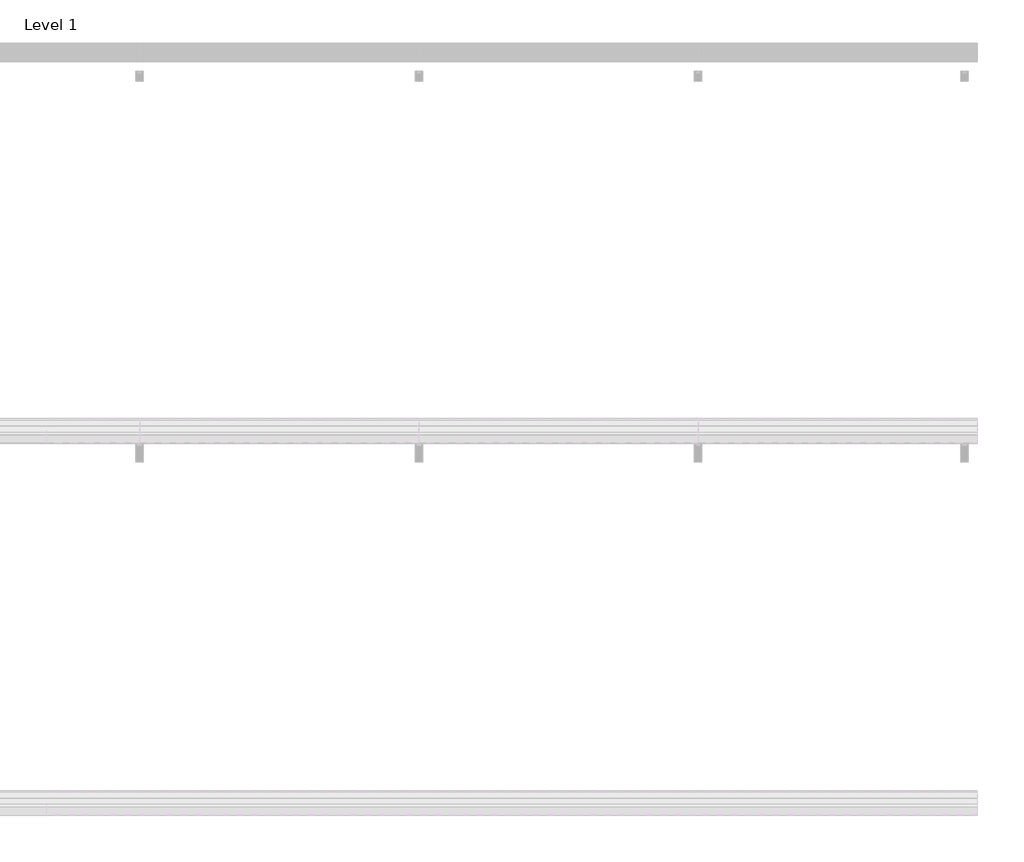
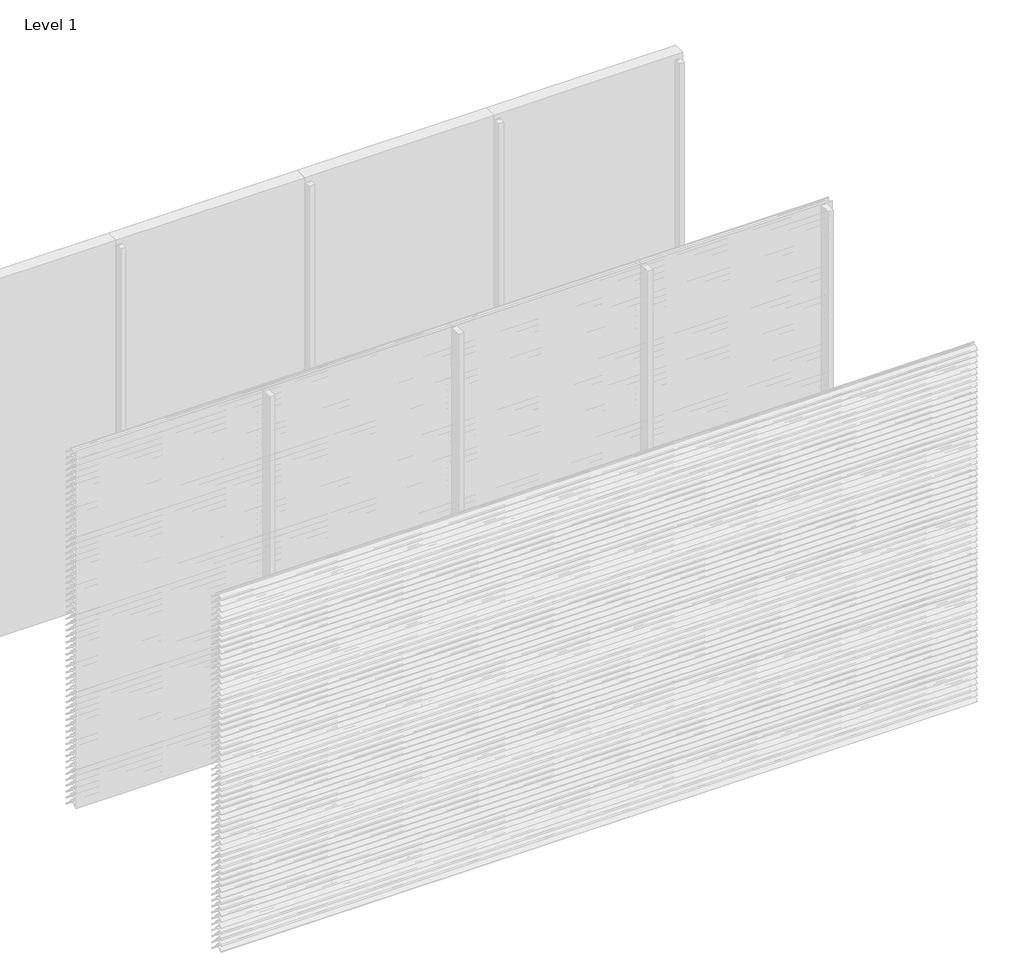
# One storey, part 67 of 173: 18 proxies.
"""IFC4 building model written with IfcOpenShell, lengths in millimetres."""

from ifc_helpers import new_model, si_unit, point, frame, frame_2d, origin, place, context, project, spatial, polyline, circle_curve, trimmed, segment, composite_curve, outline, extrude, element, save

model = new_model("IFC4")

# Units and contexts
model_context = context("Model", 3, world=origin())
ifc_project = project(units=[si_unit("LENGTHUNIT", "METRE", prefix="MILLI")], contexts=[model_context])

# Site, building, storey
site = spatial("IfcSite", under=ifc_project)
building = spatial("IfcBuilding", under=site)
storey = spatial("IfcBuildingStorey", under=building, Name="Level 1", Elevation=0.0)

# Proxies
placement = place(None, origin())
element("IfcBuildingElementProxy", 1, Name="Wall Sweeps", at=placement, inside=storey, context=model_context, shape_type="SweptSolid", body=[
    extrude(outline(composite_curve([segment(polyline([(-35998.0, 959.1474905), (-35998.0, 961.6227417)]), True, "CONTINUOUS"), segment(trimmed(circle_curve(frame_2d((-35951.2682172, 916.2200208)), 65.1557103), [point((-35998.0, 961.6227417))], [point((-35954.4014323, 981.3003524))], False, "CARTESIAN"), True, "CONTINUOUS"), segment(polyline([(-35954.4014323, 981.3003524), (-35934.8315836, 981.3003524)]), True, "CONTINUOUS"), segment(trimmed(circle_curve(frame_2d((-35732.7329489, 1128.5533172)), 250.0545817), [point((-35934.8315836, 981.3003524))], [point((-35941.4452143, 990.8344583))], False, "CARTESIAN"), True, "CONTINUOUS"), segment(trimmed(circle_curve(frame_2d((-35953.2981792, 985.1737835)), 13.1352966), [point((-35941.4452143, 990.8344583))], [point((-35953.8171475, 998.298824))], True, "CARTESIAN"), True, "CONTINUOUS"), segment(polyline([(-35953.8171475, 998.298824), (-35953.8171475, 1000.0)]), True, "CONTINUOUS"), segment(trimmed(circle_curve(frame_2d((-35953.2981792, 985.1737835)), 14.8352966), [point((-35953.8171475, 1000.0))], [point((-35939.9637661, 991.6760487))], False, "CARTESIAN"), True, "CONTINUOUS"), segment(trimmed(circle_curve(frame_2d((-35732.7329489, 1128.5533172)), 248.3545817), [point((-35939.9637661, 991.6760487))], [point((-35873.8787895, 924.2059416))], True, "CARTESIAN"), True, "CONTINUOUS"), segment(trimmed(circle_curve(frame_2d((-35883.8147537, 911.6649442)), 16.0), [point((-35873.8787895, 924.2059416))], [point((-35867.8648347, 910.4))], False, "CARTESIAN"), True, "CONTINUOUS"), segment(polyline([(-35867.8648347, 910.4), (-35869.6712069, 910.4)]), True, "CONTINUOUS"), segment(trimmed(circle_curve(frame_2d((-35883.8147537, 911.6649442)), 14.2), [point((-35869.6712069, 910.4))], [point((-35874.9518628, 922.7594998))], True, "CARTESIAN"), True, "CONTINUOUS"), segment(trimmed(circle_curve(frame_2d((-35732.7329489, 1128.5533172)), 250.1545817), [point((-35874.9518628, 922.7594998))], [point((-35933.7064024, 979.6003524))], False, "CARTESIAN"), True, "CONTINUOUS"), segment(polyline([(-35933.7064024, 979.6003524), (-35954.3602632, 979.6003524)]), True, "CONTINUOUS"), segment(trimmed(circle_curve(frame_2d((-35951.2682172, 916.2200208)), 63.4557103), [point((-35954.3602632, 979.6003524))], [point((-35998.0, 959.1474905))], True, "CARTESIAN"), True, "CONTINUOUS")], self_intersect=False)), frame((3000.0, 0.0, 0.0), z_axis=(1.0, 0.0, 0.0), x_axis=(0.0, 1.0, 0.0)), (0.0, 0.0, 1.0), 1500.0),
])
element("IfcBuildingElementProxy", 2, Name="Wall Sweeps", at=placement, inside=storey, context=model_context, shape_type="SweptSolid", body=[
    extrude(outline(composite_curve([segment(polyline([(-35998.0, 909.1474905), (-35998.0, 911.6227417)]), True, "CONTINUOUS"), segment(trimmed(circle_curve(frame_2d((-35951.2682172, 866.2200208)), 65.1557103), [point((-35998.0, 911.6227417))], [point((-35954.4014323, 931.3003524))], False, "CARTESIAN"), True, "CONTINUOUS"), segment(polyline([(-35954.4014323, 931.3003524), (-35934.8315836, 931.3003524)]), True, "CONTINUOUS"), segment(trimmed(circle_curve(frame_2d((-35732.7329489, 1078.5533172)), 250.0545817), [point((-35934.8315836, 931.3003524))], [point((-35941.4452143, 940.8344583))], False, "CARTESIAN"), True, "CONTINUOUS"), segment(trimmed(circle_curve(frame_2d((-35953.2981792, 935.1737835)), 13.1352966), [point((-35941.4452143, 940.8344583))], [point((-35953.8171475, 948.298824))], True, "CARTESIAN"), True, "CONTINUOUS"), segment(polyline([(-35953.8171475, 948.298824), (-35953.8171475, 950.0)]), True, "CONTINUOUS"), segment(trimmed(circle_curve(frame_2d((-35953.2981792, 935.1737835)), 14.8352966), [point((-35953.8171475, 950.0))], [point((-35939.9637661, 941.6760487))], False, "CARTESIAN"), True, "CONTINUOUS"), segment(trimmed(circle_curve(frame_2d((-35732.7329489, 1078.5533172)), 248.3545817), [point((-35939.9637661, 941.6760487))], [point((-35873.8787895, 874.2059416))], True, "CARTESIAN"), True, "CONTINUOUS"), segment(trimmed(circle_curve(frame_2d((-35883.8147537, 861.6649442)), 16.0), [point((-35873.8787895, 874.2059416))], [point((-35867.8648347, 860.4))], False, "CARTESIAN"), True, "CONTINUOUS"), segment(polyline([(-35867.8648347, 860.4), (-35869.6712069, 860.4)]), True, "CONTINUOUS"), segment(trimmed(circle_curve(frame_2d((-35883.8147537, 861.6649442)), 14.2), [point((-35869.6712069, 860.4))], [point((-35874.9518628, 872.7594998))], True, "CARTESIAN"), True, "CONTINUOUS"), segment(trimmed(circle_curve(frame_2d((-35732.7329489, 1078.5533172)), 250.1545817), [point((-35874.9518628, 872.7594998))], [point((-35933.7064024, 929.6003524))], False, "CARTESIAN"), True, "CONTINUOUS"), segment(polyline([(-35933.7064024, 929.6003524), (-35954.3602632, 929.6003524)]), True, "CONTINUOUS"), segment(trimmed(circle_curve(frame_2d((-35951.2682172, 866.2200208)), 63.4557103), [point((-35954.3602632, 929.6003524))], [point((-35998.0, 909.1474905))], True, "CARTESIAN"), True, "CONTINUOUS")], self_intersect=False)), frame((3000.0, 0.0, 0.0), z_axis=(1.0, 0.0, 0.0), x_axis=(0.0, 1.0, 0.0)), (0.0, 0.0, 1.0), 1500.0),
])
element("IfcBuildingElementProxy", 3, Name="Wall Sweeps", at=placement, inside=storey, context=model_context, shape_type="SweptSolid", body=[
    extrude(outline(composite_curve([segment(polyline([(-35998.0, 859.1474905), (-35998.0, 861.6227417)]), True, "CONTINUOUS"), segment(trimmed(circle_curve(frame_2d((-35951.2682172, 816.2200208)), 65.1557103), [point((-35998.0, 861.6227417))], [point((-35954.4014323, 881.3003524))], False, "CARTESIAN"), True, "CONTINUOUS"), segment(polyline([(-35954.4014323, 881.3003524), (-35934.8315836, 881.3003524)]), True, "CONTINUOUS"), segment(trimmed(circle_curve(frame_2d((-35732.7329489, 1028.5533172)), 250.0545817), [point((-35934.8315836, 881.3003524))], [point((-35941.4452143, 890.8344583))], False, "CARTESIAN"), True, "CONTINUOUS"), segment(trimmed(circle_curve(frame_2d((-35953.2981792, 885.1737835)), 13.1352966), [point((-35941.4452143, 890.8344583))], [point((-35953.8171475, 898.298824))], True, "CARTESIAN"), True, "CONTINUOUS"), segment(polyline([(-35953.8171475, 898.298824), (-35953.8171475, 900.0)]), True, "CONTINUOUS"), segment(trimmed(circle_curve(frame_2d((-35953.2981792, 885.1737835)), 14.8352966), [point((-35953.8171475, 900.0))], [point((-35939.9637661, 891.6760487))], False, "CARTESIAN"), True, "CONTINUOUS"), segment(trimmed(circle_curve(frame_2d((-35732.7329489, 1028.5533172)), 248.3545817), [point((-35939.9637661, 891.6760487))], [point((-35873.8787895, 824.2059416))], True, "CARTESIAN"), True, "CONTINUOUS"), segment(trimmed(circle_curve(frame_2d((-35883.8147537, 811.6649442)), 16.0), [point((-35873.8787895, 824.2059416))], [point((-35867.8648347, 810.4))], False, "CARTESIAN"), True, "CONTINUOUS"), segment(polyline([(-35867.8648347, 810.4), (-35869.6712069, 810.4)]), True, "CONTINUOUS"), segment(trimmed(circle_curve(frame_2d((-35883.8147537, 811.6649442)), 14.2), [point((-35869.6712069, 810.4))], [point((-35874.9518628, 822.7594998))], True, "CARTESIAN"), True, "CONTINUOUS"), segment(trimmed(circle_curve(frame_2d((-35732.7329489, 1028.5533172)), 250.1545817), [point((-35874.9518628, 822.7594998))], [point((-35933.7064024, 879.6003524))], False, "CARTESIAN"), True, "CONTINUOUS"), segment(polyline([(-35933.7064024, 879.6003524), (-35954.3602632, 879.6003524)]), True, "CONTINUOUS"), segment(trimmed(circle_curve(frame_2d((-35951.2682172, 816.2200208)), 63.4557103), [point((-35954.3602632, 879.6003524))], [point((-35998.0, 859.1474905))], True, "CARTESIAN"), True, "CONTINUOUS")], self_intersect=False)), frame((3000.0, 0.0, 0.0), z_axis=(1.0, 0.0, 0.0), x_axis=(0.0, 1.0, 0.0)), (0.0, 0.0, 1.0), 1500.0),
])
element("IfcBuildingElementProxy", 4, Name="Wall Sweeps", at=placement, inside=storey, context=model_context, shape_type="SweptSolid", body=[
    extrude(outline(composite_curve([segment(polyline([(-35998.0, 809.1474905), (-35998.0, 811.6227417)]), True, "CONTINUOUS"), segment(trimmed(circle_curve(frame_2d((-35951.2682172, 766.2200208)), 65.1557103), [point((-35998.0, 811.6227417))], [point((-35954.4014323, 831.3003524))], False, "CARTESIAN"), True, "CONTINUOUS"), segment(polyline([(-35954.4014323, 831.3003524), (-35934.8315836, 831.3003524)]), True, "CONTINUOUS"), segment(trimmed(circle_curve(frame_2d((-35732.7329489, 978.5533172)), 250.0545817), [point((-35934.8315836, 831.3003524))], [point((-35941.4452143, 840.8344583))], False, "CARTESIAN"), True, "CONTINUOUS"), segment(trimmed(circle_curve(frame_2d((-35953.2981792, 835.1737835)), 13.1352966), [point((-35941.4452143, 840.8344583))], [point((-35953.8171475, 848.298824))], True, "CARTESIAN"), True, "CONTINUOUS"), segment(polyline([(-35953.8171475, 848.298824), (-35953.8171475, 850.0)]), True, "CONTINUOUS"), segment(trimmed(circle_curve(frame_2d((-35953.2981792, 835.1737835)), 14.8352966), [point((-35953.8171475, 850.0))], [point((-35939.9637661, 841.6760487))], False, "CARTESIAN"), True, "CONTINUOUS"), segment(trimmed(circle_curve(frame_2d((-35732.7329489, 978.5533172)), 248.3545817), [point((-35939.9637661, 841.6760487))], [point((-35873.8787895, 774.2059416))], True, "CARTESIAN"), True, "CONTINUOUS"), segment(trimmed(circle_curve(frame_2d((-35883.8147537, 761.6649442)), 16.0), [point((-35873.8787895, 774.2059416))], [point((-35867.8648347, 760.4))], False, "CARTESIAN"), True, "CONTINUOUS"), segment(polyline([(-35867.8648347, 760.4), (-35869.6712069, 760.4)]), True, "CONTINUOUS"), segment(trimmed(circle_curve(frame_2d((-35883.8147537, 761.6649442)), 14.2), [point((-35869.6712069, 760.4))], [point((-35874.9518628, 772.7594998))], True, "CARTESIAN"), True, "CONTINUOUS"), segment(trimmed(circle_curve(frame_2d((-35732.7329489, 978.5533172)), 250.1545817), [point((-35874.9518628, 772.7594998))], [point((-35933.7064024, 829.6003524))], False, "CARTESIAN"), True, "CONTINUOUS"), segment(polyline([(-35933.7064024, 829.6003524), (-35954.3602632, 829.6003524)]), True, "CONTINUOUS"), segment(trimmed(circle_curve(frame_2d((-35951.2682172, 766.2200208)), 63.4557103), [point((-35954.3602632, 829.6003524))], [point((-35998.0, 809.1474905))], True, "CARTESIAN"), True, "CONTINUOUS")], self_intersect=False)), frame((3000.0, 0.0, 0.0), z_axis=(1.0, 0.0, 0.0), x_axis=(0.0, 1.0, 0.0)), (0.0, 0.0, 1.0), 1500.0),
])
element("IfcBuildingElementProxy", 5, Name="Wall Sweeps", at=placement, inside=storey, context=model_context, shape_type="SweptSolid", body=[
    extrude(outline(composite_curve([segment(polyline([(-35998.0, 759.1474905), (-35998.0, 761.6227417)]), True, "CONTINUOUS"), segment(trimmed(circle_curve(frame_2d((-35951.2682172, 716.2200208)), 65.1557103), [point((-35998.0, 761.6227417))], [point((-35954.4014323, 781.3003524))], False, "CARTESIAN"), True, "CONTINUOUS"), segment(polyline([(-35954.4014323, 781.3003524), (-35934.8315836, 781.3003524)]), True, "CONTINUOUS"), segment(trimmed(circle_curve(frame_2d((-35732.7329489, 928.5533172)), 250.0545817), [point((-35934.8315836, 781.3003524))], [point((-35941.4452143, 790.8344583))], False, "CARTESIAN"), True, "CONTINUOUS"), segment(trimmed(circle_curve(frame_2d((-35953.2981792, 785.1737835)), 13.1352966), [point((-35941.4452143, 790.8344583))], [point((-35953.8171475, 798.298824))], True, "CARTESIAN"), True, "CONTINUOUS"), segment(polyline([(-35953.8171475, 798.298824), (-35953.8171475, 800.0)]), True, "CONTINUOUS"), segment(trimmed(circle_curve(frame_2d((-35953.2981792, 785.1737835)), 14.8352966), [point((-35953.8171475, 800.0))], [point((-35939.9637661, 791.6760487))], False, "CARTESIAN"), True, "CONTINUOUS"), segment(trimmed(circle_curve(frame_2d((-35732.7329489, 928.5533172)), 248.3545817), [point((-35939.9637661, 791.6760487))], [point((-35873.8787895, 724.2059416))], True, "CARTESIAN"), True, "CONTINUOUS"), segment(trimmed(circle_curve(frame_2d((-35883.8147537, 711.6649442)), 16.0), [point((-35873.8787895, 724.2059416))], [point((-35867.8648347, 710.4))], False, "CARTESIAN"), True, "CONTINUOUS"), segment(polyline([(-35867.8648347, 710.4), (-35869.6712069, 710.4)]), True, "CONTINUOUS"), segment(trimmed(circle_curve(frame_2d((-35883.8147537, 711.6649442)), 14.2), [point((-35869.6712069, 710.4))], [point((-35874.9518628, 722.7594998))], True, "CARTESIAN"), True, "CONTINUOUS"), segment(trimmed(circle_curve(frame_2d((-35732.7329489, 928.5533172)), 250.1545817), [point((-35874.9518628, 722.7594998))], [point((-35933.7064024, 779.6003524))], False, "CARTESIAN"), True, "CONTINUOUS"), segment(polyline([(-35933.7064024, 779.6003524), (-35954.3602632, 779.6003524)]), True, "CONTINUOUS"), segment(trimmed(circle_curve(frame_2d((-35951.2682172, 716.2200208)), 63.4557103), [point((-35954.3602632, 779.6003524))], [point((-35998.0, 759.1474905))], True, "CARTESIAN"), True, "CONTINUOUS")], self_intersect=False)), frame((3000.0, 0.0, 0.0), z_axis=(1.0, 0.0, 0.0), x_axis=(0.0, 1.0, 0.0)), (0.0, 0.0, 1.0), 1500.0),
])
element("IfcBuildingElementProxy", 6, Name="Wall Sweeps", at=placement, inside=storey, context=model_context, shape_type="SweptSolid", body=[
    extrude(outline(composite_curve([segment(polyline([(-35998.0, 709.1474905), (-35998.0, 711.6227417)]), True, "CONTINUOUS"), segment(trimmed(circle_curve(frame_2d((-35951.2682172, 666.2200208)), 65.1557103), [point((-35998.0, 711.6227417))], [point((-35954.4014323, 731.3003524))], False, "CARTESIAN"), True, "CONTINUOUS"), segment(polyline([(-35954.4014323, 731.3003524), (-35934.8315836, 731.3003524)]), True, "CONTINUOUS"), segment(trimmed(circle_curve(frame_2d((-35732.7329489, 878.5533172)), 250.0545817), [point((-35934.8315836, 731.3003524))], [point((-35941.4452143, 740.8344583))], False, "CARTESIAN"), True, "CONTINUOUS"), segment(trimmed(circle_curve(frame_2d((-35953.2981792, 735.1737835)), 13.1352966), [point((-35941.4452143, 740.8344583))], [point((-35953.8171475, 748.298824))], True, "CARTESIAN"), True, "CONTINUOUS"), segment(polyline([(-35953.8171475, 748.298824), (-35953.8171475, 750.0)]), True, "CONTINUOUS"), segment(trimmed(circle_curve(frame_2d((-35953.2981792, 735.1737835)), 14.8352966), [point((-35953.8171475, 750.0))], [point((-35939.9637661, 741.6760487))], False, "CARTESIAN"), True, "CONTINUOUS"), segment(trimmed(circle_curve(frame_2d((-35732.7329489, 878.5533172)), 248.3545817), [point((-35939.9637661, 741.6760487))], [point((-35873.8787895, 674.2059416))], True, "CARTESIAN"), True, "CONTINUOUS"), segment(trimmed(circle_curve(frame_2d((-35883.8147537, 661.6649442)), 16.0), [point((-35873.8787895, 674.2059416))], [point((-35867.8648347, 660.4))], False, "CARTESIAN"), True, "CONTINUOUS"), segment(polyline([(-35867.8648347, 660.4), (-35869.6712069, 660.4)]), True, "CONTINUOUS"), segment(trimmed(circle_curve(frame_2d((-35883.8147537, 661.6649442)), 14.2), [point((-35869.6712069, 660.4))], [point((-35874.9518628, 672.7594998))], True, "CARTESIAN"), True, "CONTINUOUS"), segment(trimmed(circle_curve(frame_2d((-35732.7329489, 878.5533172)), 250.1545817), [point((-35874.9518628, 672.7594998))], [point((-35933.7064024, 729.6003524))], False, "CARTESIAN"), True, "CONTINUOUS"), segment(polyline([(-35933.7064024, 729.6003524), (-35954.3602632, 729.6003524)]), True, "CONTINUOUS"), segment(trimmed(circle_curve(frame_2d((-35951.2682172, 666.2200208)), 63.4557103), [point((-35954.3602632, 729.6003524))], [point((-35998.0, 709.1474905))], True, "CARTESIAN"), True, "CONTINUOUS")], self_intersect=False)), frame((3000.0, 0.0, 0.0), z_axis=(1.0, 0.0, 0.0), x_axis=(0.0, 1.0, 0.0)), (0.0, 0.0, 1.0), 1500.0),
])
element("IfcBuildingElementProxy", 7, Name="Wall Sweeps", at=placement, inside=storey, context=model_context, shape_type="SweptSolid", body=[
    extrude(outline(composite_curve([segment(polyline([(-35998.0, 659.1474905), (-35998.0, 661.6227417)]), True, "CONTINUOUS"), segment(trimmed(circle_curve(frame_2d((-35951.2682172, 616.2200208)), 65.1557103), [point((-35998.0, 661.6227417))], [point((-35954.4014323, 681.3003524))], False, "CARTESIAN"), True, "CONTINUOUS"), segment(polyline([(-35954.4014323, 681.3003524), (-35934.8315836, 681.3003524)]), True, "CONTINUOUS"), segment(trimmed(circle_curve(frame_2d((-35732.7329489, 828.5533172)), 250.0545817), [point((-35934.8315836, 681.3003524))], [point((-35941.4452143, 690.8344583))], False, "CARTESIAN"), True, "CONTINUOUS"), segment(trimmed(circle_curve(frame_2d((-35953.2981792, 685.1737835)), 13.1352966), [point((-35941.4452143, 690.8344583))], [point((-35953.8171475, 698.298824))], True, "CARTESIAN"), True, "CONTINUOUS"), segment(polyline([(-35953.8171475, 698.298824), (-35953.8171475, 700.0)]), True, "CONTINUOUS"), segment(trimmed(circle_curve(frame_2d((-35953.2981792, 685.1737835)), 14.8352966), [point((-35953.8171475, 700.0))], [point((-35939.9637661, 691.6760487))], False, "CARTESIAN"), True, "CONTINUOUS"), segment(trimmed(circle_curve(frame_2d((-35732.7329489, 828.5533172)), 248.3545817), [point((-35939.9637661, 691.6760487))], [point((-35873.8787895, 624.2059416))], True, "CARTESIAN"), True, "CONTINUOUS"), segment(trimmed(circle_curve(frame_2d((-35883.8147537, 611.6649442)), 16.0), [point((-35873.8787895, 624.2059416))], [point((-35867.8648347, 610.4))], False, "CARTESIAN"), True, "CONTINUOUS"), segment(polyline([(-35867.8648347, 610.4), (-35869.6712069, 610.4)]), True, "CONTINUOUS"), segment(trimmed(circle_curve(frame_2d((-35883.8147537, 611.6649442)), 14.2), [point((-35869.6712069, 610.4))], [point((-35874.9518628, 622.7594998))], True, "CARTESIAN"), True, "CONTINUOUS"), segment(trimmed(circle_curve(frame_2d((-35732.7329489, 828.5533172)), 250.1545817), [point((-35874.9518628, 622.7594998))], [point((-35933.7064024, 679.6003524))], False, "CARTESIAN"), True, "CONTINUOUS"), segment(polyline([(-35933.7064024, 679.6003524), (-35954.3602632, 679.6003524)]), True, "CONTINUOUS"), segment(trimmed(circle_curve(frame_2d((-35951.2682172, 616.2200208)), 63.4557103), [point((-35954.3602632, 679.6003524))], [point((-35998.0, 659.1474905))], True, "CARTESIAN"), True, "CONTINUOUS")], self_intersect=False)), frame((3000.0, 0.0, 0.0), z_axis=(1.0, 0.0, 0.0), x_axis=(0.0, 1.0, 0.0)), (0.0, 0.0, 1.0), 1500.0),
])
element("IfcBuildingElementProxy", 8, Name="Wall Sweeps", at=placement, inside=storey, context=model_context, shape_type="SweptSolid", body=[
    extrude(outline(composite_curve([segment(polyline([(-35998.0, 609.1474905), (-35998.0, 611.6227417)]), True, "CONTINUOUS"), segment(trimmed(circle_curve(frame_2d((-35951.2682172, 566.2200208)), 65.1557103), [point((-35998.0, 611.6227417))], [point((-35954.4014323, 631.3003524))], False, "CARTESIAN"), True, "CONTINUOUS"), segment(polyline([(-35954.4014323, 631.3003524), (-35934.8315836, 631.3003524)]), True, "CONTINUOUS"), segment(trimmed(circle_curve(frame_2d((-35732.7329489, 778.5533172)), 250.0545817), [point((-35934.8315836, 631.3003524))], [point((-35941.4452143, 640.8344583))], False, "CARTESIAN"), True, "CONTINUOUS"), segment(trimmed(circle_curve(frame_2d((-35953.2981792, 635.1737835)), 13.1352966), [point((-35941.4452143, 640.8344583))], [point((-35953.8171475, 648.298824))], True, "CARTESIAN"), True, "CONTINUOUS"), segment(polyline([(-35953.8171475, 648.298824), (-35953.8171475, 650.0)]), True, "CONTINUOUS"), segment(trimmed(circle_curve(frame_2d((-35953.2981792, 635.1737835)), 14.8352966), [point((-35953.8171475, 650.0))], [point((-35939.9637661, 641.6760487))], False, "CARTESIAN"), True, "CONTINUOUS"), segment(trimmed(circle_curve(frame_2d((-35732.7329489, 778.5533172)), 248.3545817), [point((-35939.9637661, 641.6760487))], [point((-35873.8787895, 574.2059416))], True, "CARTESIAN"), True, "CONTINUOUS"), segment(trimmed(circle_curve(frame_2d((-35883.8147537, 561.6649442)), 16.0), [point((-35873.8787895, 574.2059416))], [point((-35867.8648347, 560.4))], False, "CARTESIAN"), True, "CONTINUOUS"), segment(polyline([(-35867.8648347, 560.4), (-35869.6712069, 560.4)]), True, "CONTINUOUS"), segment(trimmed(circle_curve(frame_2d((-35883.8147537, 561.6649442)), 14.2), [point((-35869.6712069, 560.4))], [point((-35874.9518628, 572.7594998))], True, "CARTESIAN"), True, "CONTINUOUS"), segment(trimmed(circle_curve(frame_2d((-35732.7329489, 778.5533172)), 250.1545817), [point((-35874.9518628, 572.7594998))], [point((-35933.7064024, 629.6003524))], False, "CARTESIAN"), True, "CONTINUOUS"), segment(polyline([(-35933.7064024, 629.6003524), (-35954.3602632, 629.6003524)]), True, "CONTINUOUS"), segment(trimmed(circle_curve(frame_2d((-35951.2682172, 566.2200208)), 63.4557103), [point((-35954.3602632, 629.6003524))], [point((-35998.0, 609.1474905))], True, "CARTESIAN"), True, "CONTINUOUS")], self_intersect=False)), frame((3000.0, 0.0, 0.0), z_axis=(1.0, 0.0, 0.0), x_axis=(0.0, 1.0, 0.0)), (0.0, 0.0, 1.0), 1500.0),
])
element("IfcBuildingElementProxy", 9, Name="Wall Sweeps", at=placement, inside=storey, context=model_context, shape_type="SweptSolid", body=[
    extrude(outline(composite_curve([segment(polyline([(-35998.0, 559.1474905), (-35998.0, 561.6227417)]), True, "CONTINUOUS"), segment(trimmed(circle_curve(frame_2d((-35951.2682172, 516.2200208)), 65.1557103), [point((-35998.0, 561.6227417))], [point((-35954.4014323, 581.3003524))], False, "CARTESIAN"), True, "CONTINUOUS"), segment(polyline([(-35954.4014323, 581.3003524), (-35934.8315836, 581.3003524)]), True, "CONTINUOUS"), segment(trimmed(circle_curve(frame_2d((-35732.7329489, 728.5533172)), 250.0545817), [point((-35934.8315836, 581.3003524))], [point((-35941.4452143, 590.8344583))], False, "CARTESIAN"), True, "CONTINUOUS"), segment(trimmed(circle_curve(frame_2d((-35953.2981792, 585.1737835)), 13.1352966), [point((-35941.4452143, 590.8344583))], [point((-35953.8171475, 598.298824))], True, "CARTESIAN"), True, "CONTINUOUS"), segment(polyline([(-35953.8171475, 598.298824), (-35953.8171475, 600.0)]), True, "CONTINUOUS"), segment(trimmed(circle_curve(frame_2d((-35953.2981792, 585.1737835)), 14.8352966), [point((-35953.8171475, 600.0))], [point((-35939.9637661, 591.6760487))], False, "CARTESIAN"), True, "CONTINUOUS"), segment(trimmed(circle_curve(frame_2d((-35732.7329489, 728.5533172)), 248.3545817), [point((-35939.9637661, 591.6760487))], [point((-35873.8787895, 524.2059416))], True, "CARTESIAN"), True, "CONTINUOUS"), segment(trimmed(circle_curve(frame_2d((-35883.8147537, 511.6649442)), 16.0), [point((-35873.8787895, 524.2059416))], [point((-35867.8648347, 510.4))], False, "CARTESIAN"), True, "CONTINUOUS"), segment(polyline([(-35867.8648347, 510.4), (-35869.6712069, 510.4)]), True, "CONTINUOUS"), segment(trimmed(circle_curve(frame_2d((-35883.8147537, 511.6649442)), 14.2), [point((-35869.6712069, 510.4))], [point((-35874.9518628, 522.7594998))], True, "CARTESIAN"), True, "CONTINUOUS"), segment(trimmed(circle_curve(frame_2d((-35732.7329489, 728.5533172)), 250.1545817), [point((-35874.9518628, 522.7594998))], [point((-35933.7064024, 579.6003524))], False, "CARTESIAN"), True, "CONTINUOUS"), segment(polyline([(-35933.7064024, 579.6003524), (-35954.3602632, 579.6003524)]), True, "CONTINUOUS"), segment(trimmed(circle_curve(frame_2d((-35951.2682172, 516.2200208)), 63.4557103), [point((-35954.3602632, 579.6003524))], [point((-35998.0, 559.1474905))], True, "CARTESIAN"), True, "CONTINUOUS")], self_intersect=False)), frame((3000.0, 0.0, 0.0), z_axis=(1.0, 0.0, 0.0), x_axis=(0.0, 1.0, 0.0)), (0.0, 0.0, 1.0), 1500.0),
])
element("IfcBuildingElementProxy", 10, Name="Wall Sweeps", at=placement, inside=storey, context=model_context, shape_type="SweptSolid", body=[
    extrude(outline(composite_curve([segment(polyline([(-35998.0, 509.1474905), (-35998.0, 511.6227417)]), True, "CONTINUOUS"), segment(trimmed(circle_curve(frame_2d((-35951.2682172, 466.2200208)), 65.1557103), [point((-35998.0, 511.6227417))], [point((-35954.4014323, 531.3003524))], False, "CARTESIAN"), True, "CONTINUOUS"), segment(polyline([(-35954.4014323, 531.3003524), (-35934.8315836, 531.3003524)]), True, "CONTINUOUS"), segment(trimmed(circle_curve(frame_2d((-35732.7329489, 678.5533172)), 250.0545817), [point((-35934.8315836, 531.3003524))], [point((-35941.4452143, 540.8344583))], False, "CARTESIAN"), True, "CONTINUOUS"), segment(trimmed(circle_curve(frame_2d((-35953.2981792, 535.1737835)), 13.1352966), [point((-35941.4452143, 540.8344583))], [point((-35953.8171475, 548.298824))], True, "CARTESIAN"), True, "CONTINUOUS"), segment(polyline([(-35953.8171475, 548.298824), (-35953.8171475, 550.0)]), True, "CONTINUOUS"), segment(trimmed(circle_curve(frame_2d((-35953.2981792, 535.1737835)), 14.8352966), [point((-35953.8171475, 550.0))], [point((-35939.9637661, 541.6760487))], False, "CARTESIAN"), True, "CONTINUOUS"), segment(trimmed(circle_curve(frame_2d((-35732.7329489, 678.5533172)), 248.3545817), [point((-35939.9637661, 541.6760487))], [point((-35873.8787895, 474.2059416))], True, "CARTESIAN"), True, "CONTINUOUS"), segment(trimmed(circle_curve(frame_2d((-35883.8147537, 461.6649442)), 16.0), [point((-35873.8787895, 474.2059416))], [point((-35867.8648347, 460.4))], False, "CARTESIAN"), True, "CONTINUOUS"), segment(polyline([(-35867.8648347, 460.4), (-35869.6712069, 460.4)]), True, "CONTINUOUS"), segment(trimmed(circle_curve(frame_2d((-35883.8147537, 461.6649442)), 14.2), [point((-35869.6712069, 460.4))], [point((-35874.9518628, 472.7594998))], True, "CARTESIAN"), True, "CONTINUOUS"), segment(trimmed(circle_curve(frame_2d((-35732.7329489, 678.5533172)), 250.1545817), [point((-35874.9518628, 472.7594998))], [point((-35933.7064024, 529.6003524))], False, "CARTESIAN"), True, "CONTINUOUS"), segment(polyline([(-35933.7064024, 529.6003524), (-35954.3602632, 529.6003524)]), True, "CONTINUOUS"), segment(trimmed(circle_curve(frame_2d((-35951.2682172, 466.2200208)), 63.4557103), [point((-35954.3602632, 529.6003524))], [point((-35998.0, 509.1474905))], True, "CARTESIAN"), True, "CONTINUOUS")], self_intersect=False)), frame((3000.0, 0.0, 0.0), z_axis=(1.0, 0.0, 0.0), x_axis=(0.0, 1.0, 0.0)), (0.0, 0.0, 1.0), 1500.0),
])
element("IfcBuildingElementProxy", 11, Name="Wall Sweeps", at=placement, inside=storey, context=model_context, shape_type="SweptSolid", body=[
    extrude(outline(composite_curve([segment(polyline([(-35998.0, 459.1474905), (-35998.0, 461.6227417)]), True, "CONTINUOUS"), segment(trimmed(circle_curve(frame_2d((-35951.2682172, 416.2200208)), 65.1557103), [point((-35998.0, 461.6227417))], [point((-35954.4014323, 481.3003524))], False, "CARTESIAN"), True, "CONTINUOUS"), segment(polyline([(-35954.4014323, 481.3003524), (-35934.8315836, 481.3003524)]), True, "CONTINUOUS"), segment(trimmed(circle_curve(frame_2d((-35732.7329489, 628.5533172)), 250.0545817), [point((-35934.8315836, 481.3003524))], [point((-35941.4452143, 490.8344583))], False, "CARTESIAN"), True, "CONTINUOUS"), segment(trimmed(circle_curve(frame_2d((-35953.2981792, 485.1737835)), 13.1352966), [point((-35941.4452143, 490.8344583))], [point((-35953.8171475, 498.298824))], True, "CARTESIAN"), True, "CONTINUOUS"), segment(polyline([(-35953.8171475, 498.298824), (-35953.8171475, 500.0)]), True, "CONTINUOUS"), segment(trimmed(circle_curve(frame_2d((-35953.2981792, 485.1737835)), 14.8352966), [point((-35953.8171475, 500.0))], [point((-35939.9637661, 491.6760487))], False, "CARTESIAN"), True, "CONTINUOUS"), segment(trimmed(circle_curve(frame_2d((-35732.7329489, 628.5533172)), 248.3545817), [point((-35939.9637661, 491.6760487))], [point((-35873.8787895, 424.2059416))], True, "CARTESIAN"), True, "CONTINUOUS"), segment(trimmed(circle_curve(frame_2d((-35883.8147537, 411.6649442)), 16.0), [point((-35873.8787895, 424.2059416))], [point((-35867.8648347, 410.4))], False, "CARTESIAN"), True, "CONTINUOUS"), segment(polyline([(-35867.8648347, 410.4), (-35869.6712069, 410.4)]), True, "CONTINUOUS"), segment(trimmed(circle_curve(frame_2d((-35883.8147537, 411.6649442)), 14.2), [point((-35869.6712069, 410.4))], [point((-35874.9518628, 422.7594998))], True, "CARTESIAN"), True, "CONTINUOUS"), segment(trimmed(circle_curve(frame_2d((-35732.7329489, 628.5533172)), 250.1545817), [point((-35874.9518628, 422.7594998))], [point((-35933.7064024, 479.6003524))], False, "CARTESIAN"), True, "CONTINUOUS"), segment(polyline([(-35933.7064024, 479.6003524), (-35954.3602632, 479.6003524)]), True, "CONTINUOUS"), segment(trimmed(circle_curve(frame_2d((-35951.2682172, 416.2200208)), 63.4557103), [point((-35954.3602632, 479.6003524))], [point((-35998.0, 459.1474905))], True, "CARTESIAN"), True, "CONTINUOUS")], self_intersect=False)), frame((3000.0, 0.0, 0.0), z_axis=(1.0, 0.0, 0.0), x_axis=(0.0, 1.0, 0.0)), (0.0, 0.0, 1.0), 1500.0),
])
element("IfcBuildingElementProxy", 12, Name="Wall Sweeps", at=placement, inside=storey, context=model_context, shape_type="SweptSolid", body=[
    extrude(outline(composite_curve([segment(polyline([(-35998.0, 409.1474905), (-35998.0, 411.6227417)]), True, "CONTINUOUS"), segment(trimmed(circle_curve(frame_2d((-35951.2682172, 366.2200208)), 65.1557103), [point((-35998.0, 411.6227417))], [point((-35954.4014323, 431.3003524))], False, "CARTESIAN"), True, "CONTINUOUS"), segment(polyline([(-35954.4014323, 431.3003524), (-35934.8315836, 431.3003524)]), True, "CONTINUOUS"), segment(trimmed(circle_curve(frame_2d((-35732.7329489, 578.5533172)), 250.0545817), [point((-35934.8315836, 431.3003524))], [point((-35941.4452143, 440.8344583))], False, "CARTESIAN"), True, "CONTINUOUS"), segment(trimmed(circle_curve(frame_2d((-35953.2981792, 435.1737835)), 13.1352966), [point((-35941.4452143, 440.8344583))], [point((-35953.8171475, 448.298824))], True, "CARTESIAN"), True, "CONTINUOUS"), segment(polyline([(-35953.8171475, 448.298824), (-35953.8171475, 450.0)]), True, "CONTINUOUS"), segment(trimmed(circle_curve(frame_2d((-35953.2981792, 435.1737835)), 14.8352966), [point((-35953.8171475, 450.0))], [point((-35939.9637661, 441.6760487))], False, "CARTESIAN"), True, "CONTINUOUS"), segment(trimmed(circle_curve(frame_2d((-35732.7329489, 578.5533172)), 248.3545817), [point((-35939.9637661, 441.6760487))], [point((-35873.8787895, 374.2059416))], True, "CARTESIAN"), True, "CONTINUOUS"), segment(trimmed(circle_curve(frame_2d((-35883.8147537, 361.6649442)), 16.0), [point((-35873.8787895, 374.2059416))], [point((-35867.8648347, 360.4))], False, "CARTESIAN"), True, "CONTINUOUS"), segment(polyline([(-35867.8648347, 360.4), (-35869.6712069, 360.4)]), True, "CONTINUOUS"), segment(trimmed(circle_curve(frame_2d((-35883.8147537, 361.6649442)), 14.2), [point((-35869.6712069, 360.4))], [point((-35874.9518628, 372.7594998))], True, "CARTESIAN"), True, "CONTINUOUS"), segment(trimmed(circle_curve(frame_2d((-35732.7329489, 578.5533172)), 250.1545817), [point((-35874.9518628, 372.7594998))], [point((-35933.7064024, 429.6003524))], False, "CARTESIAN"), True, "CONTINUOUS"), segment(polyline([(-35933.7064024, 429.6003524), (-35954.3602632, 429.6003524)]), True, "CONTINUOUS"), segment(trimmed(circle_curve(frame_2d((-35951.2682172, 366.2200208)), 63.4557103), [point((-35954.3602632, 429.6003524))], [point((-35998.0, 409.1474905))], True, "CARTESIAN"), True, "CONTINUOUS")], self_intersect=False)), frame((3000.0, 0.0, 0.0), z_axis=(1.0, 0.0, 0.0), x_axis=(0.0, 1.0, 0.0)), (0.0, 0.0, 1.0), 1500.0),
])
element("IfcBuildingElementProxy", 13, Name="Wall Sweeps", at=placement, inside=storey, context=model_context, shape_type="SweptSolid", body=[
    extrude(outline(composite_curve([segment(polyline([(-35998.0, 359.1474905), (-35998.0, 361.6227417)]), True, "CONTINUOUS"), segment(trimmed(circle_curve(frame_2d((-35951.2682172, 316.2200208)), 65.1557103), [point((-35998.0, 361.6227417))], [point((-35954.4014323, 381.3003524))], False, "CARTESIAN"), True, "CONTINUOUS"), segment(polyline([(-35954.4014323, 381.3003524), (-35934.8315836, 381.3003524)]), True, "CONTINUOUS"), segment(trimmed(circle_curve(frame_2d((-35732.7329489, 528.5533172)), 250.0545817), [point((-35934.8315836, 381.3003524))], [point((-35941.4452143, 390.8344583))], False, "CARTESIAN"), True, "CONTINUOUS"), segment(trimmed(circle_curve(frame_2d((-35953.2981792, 385.1737835)), 13.1352966), [point((-35941.4452143, 390.8344583))], [point((-35953.8171475, 398.298824))], True, "CARTESIAN"), True, "CONTINUOUS"), segment(polyline([(-35953.8171475, 398.298824), (-35953.8171475, 400.0)]), True, "CONTINUOUS"), segment(trimmed(circle_curve(frame_2d((-35953.2981792, 385.1737835)), 14.8352966), [point((-35953.8171475, 400.0))], [point((-35939.9637661, 391.6760487))], False, "CARTESIAN"), True, "CONTINUOUS"), segment(trimmed(circle_curve(frame_2d((-35732.7329489, 528.5533172)), 248.3545817), [point((-35939.9637661, 391.6760487))], [point((-35873.8787895, 324.2059416))], True, "CARTESIAN"), True, "CONTINUOUS"), segment(trimmed(circle_curve(frame_2d((-35883.8147537, 311.6649442)), 16.0), [point((-35873.8787895, 324.2059416))], [point((-35867.8648347, 310.4))], False, "CARTESIAN"), True, "CONTINUOUS"), segment(polyline([(-35867.8648347, 310.4), (-35869.6712069, 310.4)]), True, "CONTINUOUS"), segment(trimmed(circle_curve(frame_2d((-35883.8147537, 311.6649442)), 14.2), [point((-35869.6712069, 310.4))], [point((-35874.9518628, 322.7594998))], True, "CARTESIAN"), True, "CONTINUOUS"), segment(trimmed(circle_curve(frame_2d((-35732.7329489, 528.5533172)), 250.1545817), [point((-35874.9518628, 322.7594998))], [point((-35933.7064024, 379.6003524))], False, "CARTESIAN"), True, "CONTINUOUS"), segment(polyline([(-35933.7064024, 379.6003524), (-35954.3602632, 379.6003524)]), True, "CONTINUOUS"), segment(trimmed(circle_curve(frame_2d((-35951.2682172, 316.2200208)), 63.4557103), [point((-35954.3602632, 379.6003524))], [point((-35998.0, 359.1474905))], True, "CARTESIAN"), True, "CONTINUOUS")], self_intersect=False)), frame((3000.0, 0.0, 0.0), z_axis=(1.0, 0.0, 0.0), x_axis=(0.0, 1.0, 0.0)), (0.0, 0.0, 1.0), 1500.0),
])
element("IfcBuildingElementProxy", 14, Name="Wall Sweeps", at=placement, inside=storey, context=model_context, shape_type="SweptSolid", body=[
    extrude(outline(composite_curve([segment(polyline([(-35998.0, 309.1474905), (-35998.0, 311.6227417)]), True, "CONTINUOUS"), segment(trimmed(circle_curve(frame_2d((-35951.2682172, 266.2200208)), 65.1557103), [point((-35998.0, 311.6227417))], [point((-35954.4014323, 331.3003524))], False, "CARTESIAN"), True, "CONTINUOUS"), segment(polyline([(-35954.4014323, 331.3003524), (-35934.8315836, 331.3003524)]), True, "CONTINUOUS"), segment(trimmed(circle_curve(frame_2d((-35732.7329489, 478.5533172)), 250.0545817), [point((-35934.8315836, 331.3003524))], [point((-35941.4452143, 340.8344583))], False, "CARTESIAN"), True, "CONTINUOUS"), segment(trimmed(circle_curve(frame_2d((-35953.2981792, 335.1737835)), 13.1352966), [point((-35941.4452143, 340.8344583))], [point((-35953.8171475, 348.298824))], True, "CARTESIAN"), True, "CONTINUOUS"), segment(polyline([(-35953.8171475, 348.298824), (-35953.8171475, 350.0)]), True, "CONTINUOUS"), segment(trimmed(circle_curve(frame_2d((-35953.2981792, 335.1737835)), 14.8352966), [point((-35953.8171475, 350.0))], [point((-35939.9637661, 341.6760487))], False, "CARTESIAN"), True, "CONTINUOUS"), segment(trimmed(circle_curve(frame_2d((-35732.7329489, 478.5533172)), 248.3545817), [point((-35939.9637661, 341.6760487))], [point((-35873.8787895, 274.2059416))], True, "CARTESIAN"), True, "CONTINUOUS"), segment(trimmed(circle_curve(frame_2d((-35883.8147537, 261.6649442)), 16.0), [point((-35873.8787895, 274.2059416))], [point((-35867.8648347, 260.4))], False, "CARTESIAN"), True, "CONTINUOUS"), segment(polyline([(-35867.8648347, 260.4), (-35869.6712069, 260.4)]), True, "CONTINUOUS"), segment(trimmed(circle_curve(frame_2d((-35883.8147537, 261.6649442)), 14.2), [point((-35869.6712069, 260.4))], [point((-35874.9518628, 272.7594998))], True, "CARTESIAN"), True, "CONTINUOUS"), segment(trimmed(circle_curve(frame_2d((-35732.7329489, 478.5533172)), 250.1545817), [point((-35874.9518628, 272.7594998))], [point((-35933.7064024, 329.6003524))], False, "CARTESIAN"), True, "CONTINUOUS"), segment(polyline([(-35933.7064024, 329.6003524), (-35954.3602632, 329.6003524)]), True, "CONTINUOUS"), segment(trimmed(circle_curve(frame_2d((-35951.2682172, 266.2200208)), 63.4557103), [point((-35954.3602632, 329.6003524))], [point((-35998.0, 309.1474905))], True, "CARTESIAN"), True, "CONTINUOUS")], self_intersect=False)), frame((3000.0, 0.0, 0.0), z_axis=(1.0, 0.0, 0.0), x_axis=(0.0, 1.0, 0.0)), (0.0, 0.0, 1.0), 1500.0),
])
element("IfcBuildingElementProxy", 15, Name="Wall Sweeps", at=placement, inside=storey, context=model_context, shape_type="SweptSolid", body=[
    extrude(outline(composite_curve([segment(polyline([(-35998.0, 259.1474905), (-35998.0, 261.6227417)]), True, "CONTINUOUS"), segment(trimmed(circle_curve(frame_2d((-35951.2682172, 216.2200208)), 65.1557103), [point((-35998.0, 261.6227417))], [point((-35954.4014323, 281.3003524))], False, "CARTESIAN"), True, "CONTINUOUS"), segment(polyline([(-35954.4014323, 281.3003524), (-35934.8315836, 281.3003524)]), True, "CONTINUOUS"), segment(trimmed(circle_curve(frame_2d((-35732.7329489, 428.5533172)), 250.0545817), [point((-35934.8315836, 281.3003524))], [point((-35941.4452143, 290.8344583))], False, "CARTESIAN"), True, "CONTINUOUS"), segment(trimmed(circle_curve(frame_2d((-35953.2981792, 285.1737835)), 13.1352966), [point((-35941.4452143, 290.8344583))], [point((-35953.8171475, 298.298824))], True, "CARTESIAN"), True, "CONTINUOUS"), segment(polyline([(-35953.8171475, 298.298824), (-35953.8171475, 300.0)]), True, "CONTINUOUS"), segment(trimmed(circle_curve(frame_2d((-35953.2981792, 285.1737835)), 14.8352966), [point((-35953.8171475, 300.0))], [point((-35939.9637661, 291.6760487))], False, "CARTESIAN"), True, "CONTINUOUS"), segment(trimmed(circle_curve(frame_2d((-35732.7329489, 428.5533172)), 248.3545817), [point((-35939.9637661, 291.6760487))], [point((-35873.8787895, 224.2059416))], True, "CARTESIAN"), True, "CONTINUOUS"), segment(trimmed(circle_curve(frame_2d((-35883.8147537, 211.6649442)), 16.0), [point((-35873.8787895, 224.2059416))], [point((-35867.8648347, 210.4))], False, "CARTESIAN"), True, "CONTINUOUS"), segment(polyline([(-35867.8648347, 210.4), (-35869.6712069, 210.4)]), True, "CONTINUOUS"), segment(trimmed(circle_curve(frame_2d((-35883.8147537, 211.6649442)), 14.2), [point((-35869.6712069, 210.4))], [point((-35874.9518628, 222.7594998))], True, "CARTESIAN"), True, "CONTINUOUS"), segment(trimmed(circle_curve(frame_2d((-35732.7329489, 428.5533172)), 250.1545817), [point((-35874.9518628, 222.7594998))], [point((-35933.7064024, 279.6003524))], False, "CARTESIAN"), True, "CONTINUOUS"), segment(polyline([(-35933.7064024, 279.6003524), (-35954.3602632, 279.6003524)]), True, "CONTINUOUS"), segment(trimmed(circle_curve(frame_2d((-35951.2682172, 216.2200208)), 63.4557103), [point((-35954.3602632, 279.6003524))], [point((-35998.0, 259.1474905))], True, "CARTESIAN"), True, "CONTINUOUS")], self_intersect=False)), frame((3000.0, 0.0, 0.0), z_axis=(1.0, 0.0, 0.0), x_axis=(0.0, 1.0, 0.0)), (0.0, 0.0, 1.0), 1500.0),
])
element("IfcBuildingElementProxy", 16, Name="Wall Sweeps", at=placement, inside=storey, context=model_context, shape_type="SweptSolid", body=[
    extrude(outline(composite_curve([segment(polyline([(-35998.0, 209.1474905), (-35998.0, 211.6227417)]), True, "CONTINUOUS"), segment(trimmed(circle_curve(frame_2d((-35951.2682172, 166.2200208)), 65.1557103), [point((-35998.0, 211.6227417))], [point((-35954.4014323, 231.3003524))], False, "CARTESIAN"), True, "CONTINUOUS"), segment(polyline([(-35954.4014323, 231.3003524), (-35934.8315836, 231.3003524)]), True, "CONTINUOUS"), segment(trimmed(circle_curve(frame_2d((-35732.7329489, 378.5533172)), 250.0545817), [point((-35934.8315836, 231.3003524))], [point((-35941.4452143, 240.8344583))], False, "CARTESIAN"), True, "CONTINUOUS"), segment(trimmed(circle_curve(frame_2d((-35953.2981792, 235.1737835)), 13.1352966), [point((-35941.4452143, 240.8344583))], [point((-35953.8171475, 248.298824))], True, "CARTESIAN"), True, "CONTINUOUS"), segment(polyline([(-35953.8171475, 248.298824), (-35953.8171475, 250.0)]), True, "CONTINUOUS"), segment(trimmed(circle_curve(frame_2d((-35953.2981792, 235.1737835)), 14.8352966), [point((-35953.8171475, 250.0))], [point((-35939.9637661, 241.6760487))], False, "CARTESIAN"), True, "CONTINUOUS"), segment(trimmed(circle_curve(frame_2d((-35732.7329489, 378.5533172)), 248.3545817), [point((-35939.9637661, 241.6760487))], [point((-35873.8787895, 174.2059416))], True, "CARTESIAN"), True, "CONTINUOUS"), segment(trimmed(circle_curve(frame_2d((-35883.8147537, 161.6649442)), 16.0), [point((-35873.8787895, 174.2059416))], [point((-35867.8648347, 160.4))], False, "CARTESIAN"), True, "CONTINUOUS"), segment(polyline([(-35867.8648347, 160.4), (-35869.6712069, 160.4)]), True, "CONTINUOUS"), segment(trimmed(circle_curve(frame_2d((-35883.8147537, 161.6649442)), 14.2), [point((-35869.6712069, 160.4))], [point((-35874.9518628, 172.7594998))], True, "CARTESIAN"), True, "CONTINUOUS"), segment(trimmed(circle_curve(frame_2d((-35732.7329489, 378.5533172)), 250.1545817), [point((-35874.9518628, 172.7594998))], [point((-35933.7064024, 229.6003524))], False, "CARTESIAN"), True, "CONTINUOUS"), segment(polyline([(-35933.7064024, 229.6003524), (-35954.3602632, 229.6003524)]), True, "CONTINUOUS"), segment(trimmed(circle_curve(frame_2d((-35951.2682172, 166.2200208)), 63.4557103), [point((-35954.3602632, 229.6003524))], [point((-35998.0, 209.1474905))], True, "CARTESIAN"), True, "CONTINUOUS")], self_intersect=False)), frame((3000.0, 0.0, 0.0), z_axis=(1.0, 0.0, 0.0), x_axis=(0.0, 1.0, 0.0)), (0.0, 0.0, 1.0), 1500.0),
])
element("IfcBuildingElementProxy", 17, Name="Wall Sweeps", at=placement, inside=storey, context=model_context, shape_type="SweptSolid", body=[
    extrude(outline(composite_curve([segment(polyline([(-35998.0, 159.1474905), (-35998.0, 161.6227417)]), True, "CONTINUOUS"), segment(trimmed(circle_curve(frame_2d((-35951.2682172, 116.2200208)), 65.1557103), [point((-35998.0, 161.6227417))], [point((-35954.4014323, 181.3003524))], False, "CARTESIAN"), True, "CONTINUOUS"), segment(polyline([(-35954.4014323, 181.3003524), (-35934.8315836, 181.3003524)]), True, "CONTINUOUS"), segment(trimmed(circle_curve(frame_2d((-35732.7329489, 328.5533172)), 250.0545817), [point((-35934.8315836, 181.3003524))], [point((-35941.4452143, 190.8344583))], False, "CARTESIAN"), True, "CONTINUOUS"), segment(trimmed(circle_curve(frame_2d((-35953.2981792, 185.1737835)), 13.1352966), [point((-35941.4452143, 190.8344583))], [point((-35953.8171475, 198.298824))], True, "CARTESIAN"), True, "CONTINUOUS"), segment(polyline([(-35953.8171475, 198.298824), (-35953.8171475, 200.0)]), True, "CONTINUOUS"), segment(trimmed(circle_curve(frame_2d((-35953.2981792, 185.1737835)), 14.8352966), [point((-35953.8171475, 200.0))], [point((-35939.9637661, 191.6760487))], False, "CARTESIAN"), True, "CONTINUOUS"), segment(trimmed(circle_curve(frame_2d((-35732.7329489, 328.5533172)), 248.3545817), [point((-35939.9637661, 191.6760487))], [point((-35873.8787895, 124.2059416))], True, "CARTESIAN"), True, "CONTINUOUS"), segment(trimmed(circle_curve(frame_2d((-35883.8147537, 111.6649442)), 16.0), [point((-35873.8787895, 124.2059416))], [point((-35867.8648347, 110.4))], False, "CARTESIAN"), True, "CONTINUOUS"), segment(polyline([(-35867.8648347, 110.4), (-35869.6712069, 110.4)]), True, "CONTINUOUS"), segment(trimmed(circle_curve(frame_2d((-35883.8147537, 111.6649442)), 14.2), [point((-35869.6712069, 110.4))], [point((-35874.9518628, 122.7594998))], True, "CARTESIAN"), True, "CONTINUOUS"), segment(trimmed(circle_curve(frame_2d((-35732.7329489, 328.5533172)), 250.1545817), [point((-35874.9518628, 122.7594998))], [point((-35933.7064024, 179.6003524))], False, "CARTESIAN"), True, "CONTINUOUS"), segment(polyline([(-35933.7064024, 179.6003524), (-35954.3602632, 179.6003524)]), True, "CONTINUOUS"), segment(trimmed(circle_curve(frame_2d((-35951.2682172, 116.2200208)), 63.4557103), [point((-35954.3602632, 179.6003524))], [point((-35998.0, 159.1474905))], True, "CARTESIAN"), True, "CONTINUOUS")], self_intersect=False)), frame((3000.0, 0.0, 0.0), z_axis=(1.0, 0.0, 0.0), x_axis=(0.0, 1.0, 0.0)), (0.0, 0.0, 1.0), 1500.0),
])
element("IfcBuildingElementProxy", 18, Name="Wall Sweeps", at=placement, inside=storey, context=model_context, shape_type="SweptSolid", body=[
    extrude(outline(composite_curve([segment(polyline([(-35998.0, 109.1474905), (-35998.0, 111.6227417)]), True, "CONTINUOUS"), segment(trimmed(circle_curve(frame_2d((-35951.2682172, 66.2200208)), 65.1557103), [point((-35998.0, 111.6227417))], [point((-35954.4014323, 131.3003524))], False, "CARTESIAN"), True, "CONTINUOUS"), segment(polyline([(-35954.4014323, 131.3003524), (-35934.8315836, 131.3003524)]), True, "CONTINUOUS"), segment(trimmed(circle_curve(frame_2d((-35732.7329489, 278.5533172)), 250.0545817), [point((-35934.8315836, 131.3003524))], [point((-35941.4452143, 140.8344583))], False, "CARTESIAN"), True, "CONTINUOUS"), segment(trimmed(circle_curve(frame_2d((-35953.2981792, 135.1737835)), 13.1352966), [point((-35941.4452143, 140.8344583))], [point((-35953.8171475, 148.298824))], True, "CARTESIAN"), True, "CONTINUOUS"), segment(polyline([(-35953.8171475, 148.298824), (-35953.8171475, 150.0)]), True, "CONTINUOUS"), segment(trimmed(circle_curve(frame_2d((-35953.2981792, 135.1737835)), 14.8352966), [point((-35953.8171475, 150.0))], [point((-35939.9637661, 141.6760487))], False, "CARTESIAN"), True, "CONTINUOUS"), segment(trimmed(circle_curve(frame_2d((-35732.7329489, 278.5533172)), 248.3545817), [point((-35939.9637661, 141.6760487))], [point((-35873.8787895, 74.2059416))], True, "CARTESIAN"), True, "CONTINUOUS"), segment(trimmed(circle_curve(frame_2d((-35883.8147537, 61.6649442)), 16.0), [point((-35873.8787895, 74.2059416))], [point((-35867.8648347, 60.4))], False, "CARTESIAN"), True, "CONTINUOUS"), segment(polyline([(-35867.8648347, 60.4), (-35869.6712069, 60.4)]), True, "CONTINUOUS"), segment(trimmed(circle_curve(frame_2d((-35883.8147537, 61.6649442)), 14.2), [point((-35869.6712069, 60.4))], [point((-35874.9518628, 72.7594998))], True, "CARTESIAN"), True, "CONTINUOUS"), segment(trimmed(circle_curve(frame_2d((-35732.7329489, 278.5533172)), 250.1545817), [point((-35874.9518628, 72.7594998))], [point((-35933.7064024, 129.6003524))], False, "CARTESIAN"), True, "CONTINUOUS"), segment(polyline([(-35933.7064024, 129.6003524), (-35954.3602632, 129.6003524)]), True, "CONTINUOUS"), segment(trimmed(circle_curve(frame_2d((-35951.2682172, 66.2200208)), 63.4557103), [point((-35954.3602632, 129.6003524))], [point((-35998.0, 109.1474905))], True, "CARTESIAN"), True, "CONTINUOUS")], self_intersect=False)), frame((3000.0, 0.0, 0.0), z_axis=(1.0, 0.0, 0.0), x_axis=(0.0, 1.0, 0.0)), (0.0, 0.0, 1.0), 1500.0),
])

save(model, "model.ifc")
